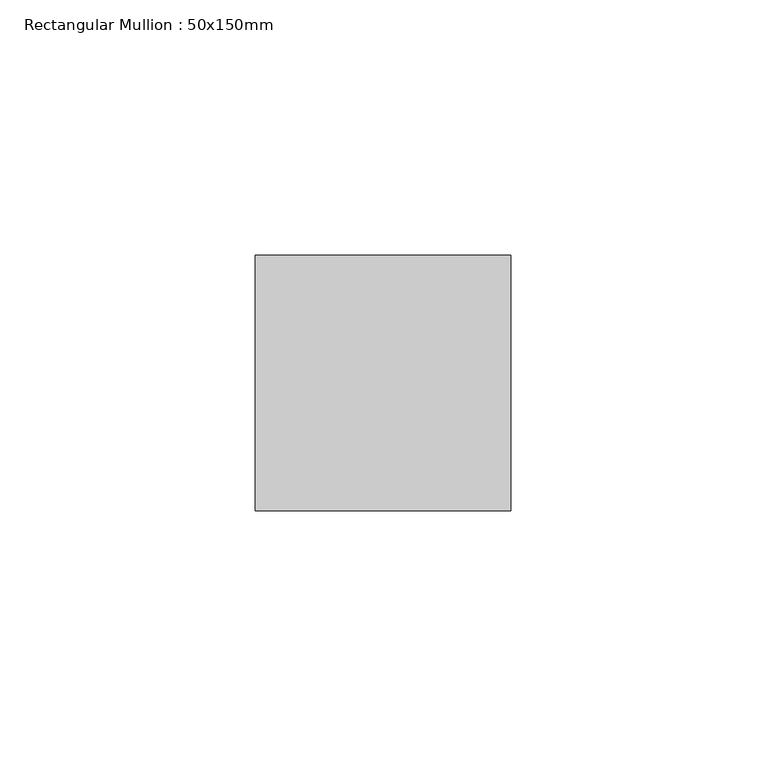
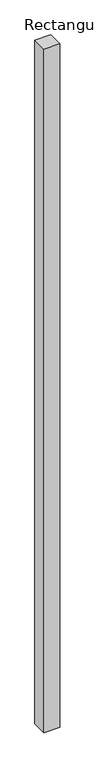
"""IFC4 building model written with IfcOpenShell, lengths in millimetres: member geometry, Rectangular Mullion : 50x150mm."""

from ifc_helpers import new_model, si_unit, frame, origin, place, context, project, spatial, polyline, outline, extrude, source, transform, mapped, element, save


def rectangular_mullion_50x150mm_9b9afa98(model_context):
    return source(origin(), model_context, "Body", "SweptSolid", [
        extrude(outline(polyline([(25.0, 25.0), (25.0, -25.0), (-25.0, -25.0), (-25.0, 25.0), (25.0, 25.0)])), frame((0.0, 0.0, -2300.0), z_axis=(0.0, 0.0, 1.0), x_axis=(1.0, 0.0, 0.0)), (0.0, 0.0, 1.0), 2300.0),
    ])


if __name__ == "__main__":
    model = new_model("IFC4")
    model_context = context("Model", 3, world=origin())
    ifc_project = project(units=[si_unit("LENGTHUNIT", "METRE", prefix="MILLI")], contexts=[model_context])
    site = spatial("IfcSite", under=ifc_project)
    building = spatial("IfcBuilding", under=site)
    placement = place(None, origin())
    rectangular_mullion_50x150mm_shape = rectangular_mullion_50x150mm_9b9afa98(model_context)
    element("IfcMember", 1, ObjectType="Rectangular Mullion : 50x150mm", at=placement, inside=building, context=model_context, shape_type="MappedRepresentation", body=[
        mapped(rectangular_mullion_50x150mm_shape, transform((0.0, 0.0, 0.0), x_axis=(1.0, 0.0, 0.0), y_axis=(0.0, 1.0, 0.0), z_axis=(0.0, 0.0, 1.0))),
    ])
    save(model, "model.ifc")
